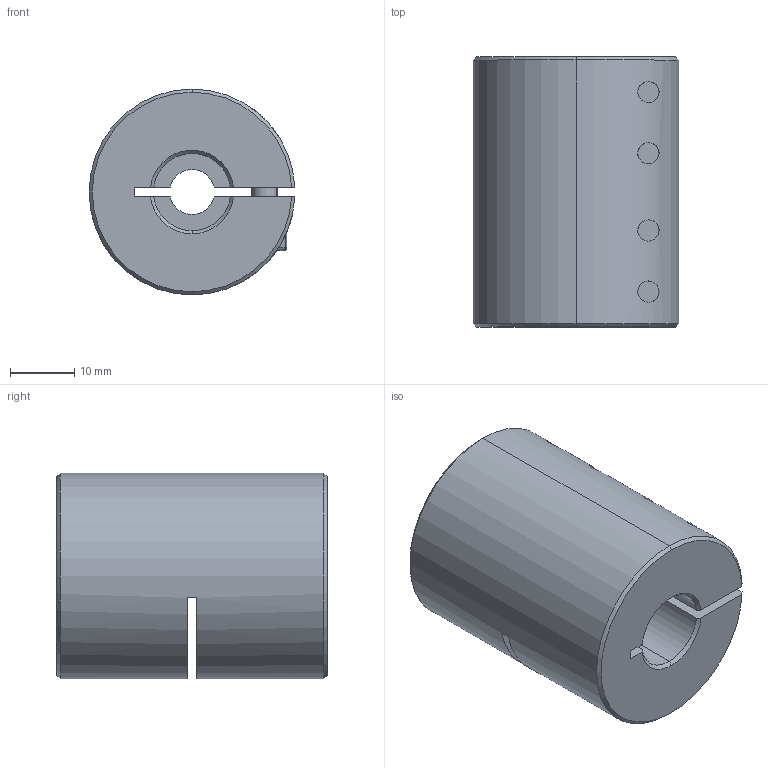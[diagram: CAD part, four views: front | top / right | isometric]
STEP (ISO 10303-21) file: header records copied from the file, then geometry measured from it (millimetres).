
FILE_DESCRIPTION (( 'STEP AP203' ), '1' );
FILE_NAME ('LL-B-D32L42-7-12.STEP', '2021-11-05T07:41:46', ( '' ), ( '' ), 'SwSTEP 2.0', 'SolidWorks 2018', '' );
FILE_SCHEMA (( 'CONFIG_CONTROL_DESIGN' ));
Length unit declared in the file: millimetre
Products named in the file (1): LL-B-D32L42-7-12
Bounding box: 31.98 x 42 x 32 mm (x, y, z)
Volume: 28122.5 mm3; surface area: 10326.8 mm2
Topology: 1 solids, 1 shells, 193 faces, 492 edges, 309 vertices
Faces by surface type: plane 88, cylinder 77, cone 20, torus 8
Entity records: 6376 total; most frequent: CARTESIAN_POINT 1559, DIRECTION 1037, ORIENTED_EDGE 968, EDGE_CURVE 484, AXIS2_PLACEMENT_3D 403, VERTEX_POINT 309, VECTOR 231, LINE 231
